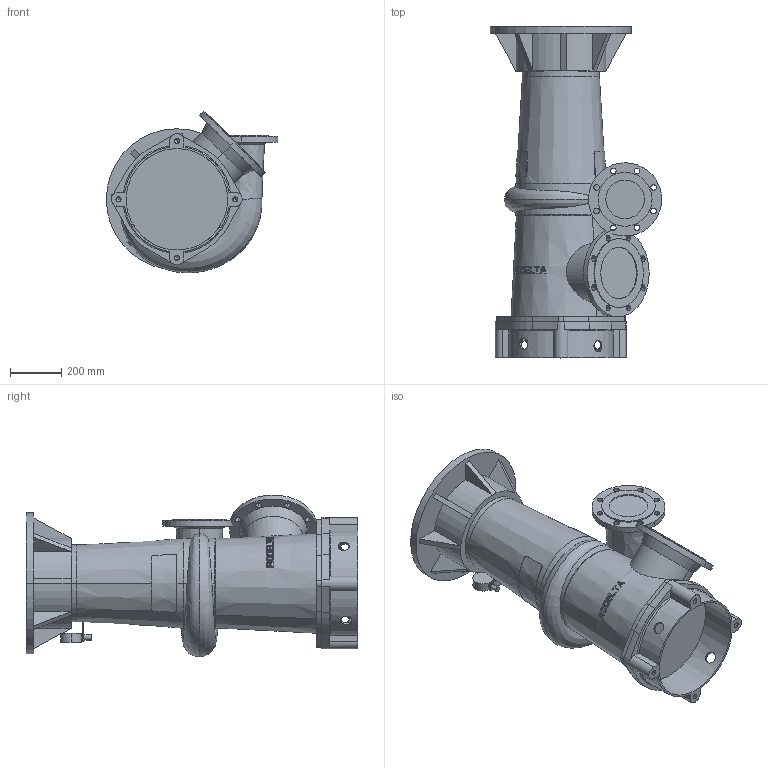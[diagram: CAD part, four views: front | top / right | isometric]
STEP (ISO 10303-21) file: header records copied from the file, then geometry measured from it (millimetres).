
FILE_DESCRIPTION((''),'2;1');
FILE_NAME('7410_VOOR_BLAD_ASM','2024-07-24T',('Lyritlocal'),(''),'PRO/ENGINEER BY PARAMETRIC TECHNOLOGY CORPORATION, 2016360','PRO/ENGINEER BY PARAMETRIC TECHNOLOGY CORPORATION, 2016360','');
FILE_SCHEMA(('CONFIG_CONTROL_DESIGN'));
Length unit declared in the file: millimetre
Products named in the file (3): 7410; 7410_VOET; 7410_VOOR_BLAD_ASM
Assembly tree (2 placements, depth 2):
  7410_VOOR_BLAD_ASM
    7410
    7410_VOET
Bounding box: 667.5 x 1292 x 629.98 mm (x, y, z)
Volume: 142858668 mm3; surface area: 3346063.5 mm2
Topology: 2 solids, 6 shells, 554 faces, 1491 edges, 983 vertices
Faces by surface type: plane 368, cylinder 138, cone 38, bspline 6, torus 4
Entity records: 19705 total; most frequent: CARTESIAN_POINT 6220, ORIENTED_EDGE 2950, DIRECTION 2529, EDGE_CURVE 1483, VERTEX_POINT 983, AXIS2_PLACEMENT_3D 961, EDGE_LOOP 646, VECTOR 607
